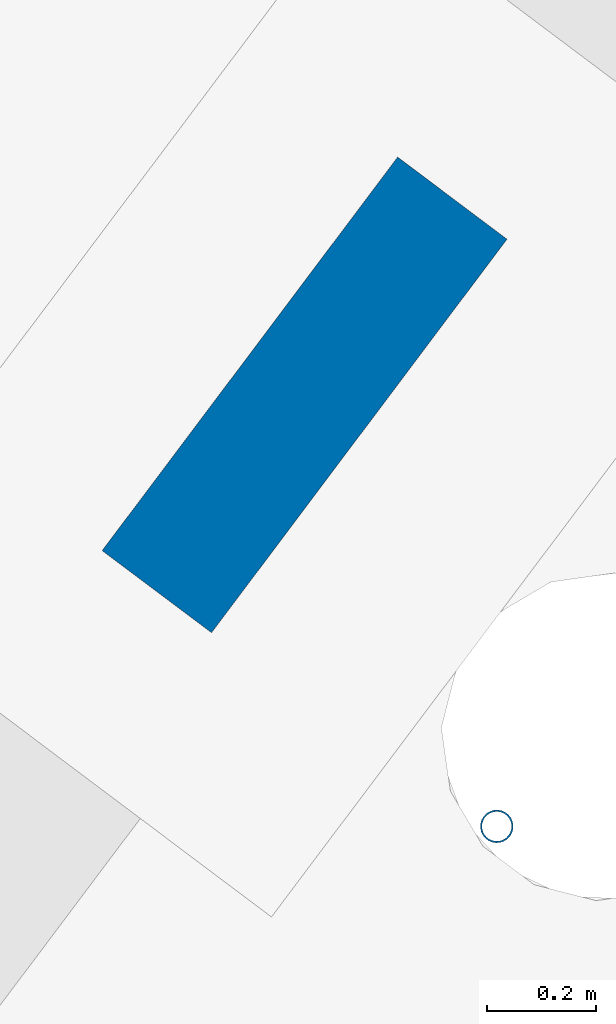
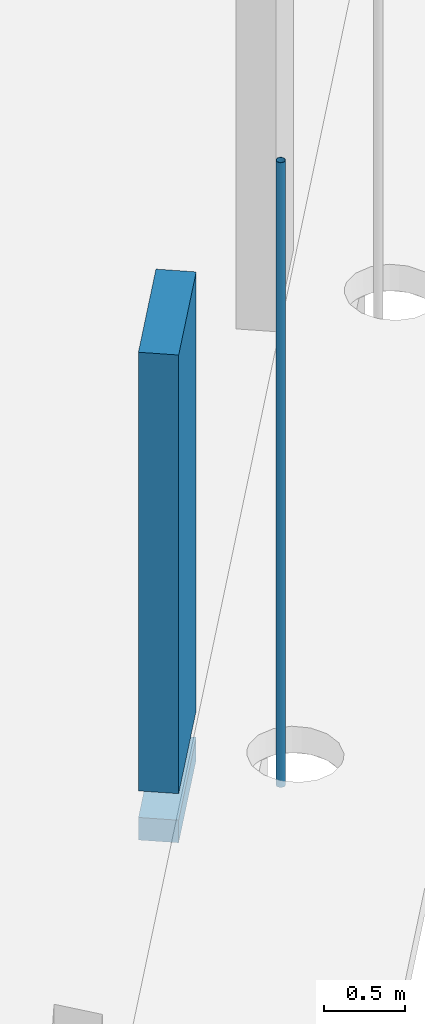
# One storey, part 4 of 24: 2 columns.
"""IFC2X3 building model written with IfcOpenShell, lengths in metres."""

from ifc_helpers import new_model, entity, si_unit, converted_unit, derived_unit, direction, frame, frame_2d, origin, origin_2d_with_axis, place, context, subcontext, project, spatial, rectangle, hollow_circle, extrude, source, transform, mapped, material, type_object, type_shapes, element, save


model = new_model("IFC2X3")

# Units and contexts
model_context = context("Model", 3, precision=1e-05, world=origin(), true_north=direction((6.123031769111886e-17, 1.0)))
body_context = subcontext(model_context, "Body", "Model", "MODEL_VIEW")
ifc_project = project(units=[si_unit("LENGTHUNIT", "METRE"), si_unit("AREAUNIT", "SQUARE_METRE"), si_unit("VOLUMEUNIT", "CUBIC_METRE"), converted_unit("PLANEANGLEUNIT", "DEGREE", entity("IfcRatioMeasure", 0.017453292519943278), si_unit("PLANEANGLEUNIT", "RADIAN"), dimensions=[0, 0, 0, 0, 0, 0, 0]), si_unit("MASSUNIT", "GRAM", prefix="KILO"), derived_unit("MASSDENSITYUNIT", [(si_unit("MASSUNIT", "GRAM", prefix="KILO"), 1), (si_unit("LENGTHUNIT", "METRE"), -3)]), derived_unit("IONCONCENTRATIONUNIT", [(si_unit("MASSUNIT", "GRAM", prefix="KILO"), 1), (si_unit("LENGTHUNIT", "METRE"), -3)]), derived_unit("MOMENTOFINERTIAUNIT", [(si_unit("LENGTHUNIT", "METRE"), 4)]), si_unit("TIMEUNIT", "SECOND"), si_unit("FREQUENCYUNIT", "HERTZ"), si_unit("THERMODYNAMICTEMPERATUREUNIT", "DEGREE_CELSIUS"), derived_unit("THERMALTRANSMITTANCEUNIT", [(si_unit("MASSUNIT", "GRAM", prefix="KILO"), 1), (si_unit("THERMODYNAMICTEMPERATUREUNIT", "KELVIN"), -1), (si_unit("TIMEUNIT", "SECOND"), -3)]), derived_unit("THERMALCONDUCTANCEUNIT", [(si_unit("MASSUNIT", "GRAM", prefix="KILO"), 1), (si_unit("THERMODYNAMICTEMPERATUREUNIT", "KELVIN"), -1), (si_unit("TIMEUNIT", "SECOND"), -3), (si_unit("LENGTHUNIT", "METRE"), 1)]), derived_unit("VOLUMETRICFLOWRATEUNIT", [(si_unit("LENGTHUNIT", "METRE"), 3), (si_unit("TIMEUNIT", "SECOND"), -1)]), derived_unit("MASSFLOWRATEUNIT", [(si_unit("MASSUNIT", "GRAM", prefix="KILO"), 1), (si_unit("TIMEUNIT", "SECOND"), -1)]), derived_unit("ROTATIONALFREQUENCYUNIT", [(si_unit("TIMEUNIT", "SECOND"), -1)]), si_unit("ELECTRICCURRENTUNIT", "AMPERE"), si_unit("ELECTRICVOLTAGEUNIT", "VOLT"), si_unit("POWERUNIT", "WATT"), si_unit("FORCEUNIT", "NEWTON", prefix="KILO"), si_unit("ILLUMINANCEUNIT", "LUX"), si_unit("LUMINOUSFLUXUNIT", "LUMEN"), si_unit("LUMINOUSINTENSITYUNIT", "CANDELA"), derived_unit("USERDEFINED", [(si_unit("MASSUNIT", "GRAM", prefix="KILO"), -1), (si_unit("LENGTHUNIT", "METRE"), -2), (si_unit("TIMEUNIT", "SECOND"), 3), (si_unit("LUMINOUSFLUXUNIT", "LUMEN"), 1)]), derived_unit("USERDEFINED", [(si_unit("MASSUNIT", "GRAM", prefix="KILO"), 1), (si_unit("TIMEUNIT", "SECOND"), -3), (si_unit("LENGTHUNIT", "METRE"), 3), (si_unit("ELECTRICCURRENTUNIT", "AMPERE"), -2)]), derived_unit("SOUNDPOWERUNIT", [(si_unit("MASSUNIT", "GRAM", prefix="KILO"), 1), (si_unit("TIMEUNIT", "SECOND"), -3), (si_unit("LENGTHUNIT", "METRE"), 2)]), derived_unit("SOUNDPRESSUREUNIT", [(si_unit("MASSUNIT", "GRAM", prefix="KILO"), 1), (si_unit("LENGTHUNIT", "METRE"), -1), (si_unit("TIMEUNIT", "SECOND"), -2)]), derived_unit("LINEARVELOCITYUNIT", [(si_unit("LENGTHUNIT", "METRE"), 1), (si_unit("TIMEUNIT", "SECOND"), -1)]), si_unit("PRESSUREUNIT", "PASCAL"), derived_unit("USERDEFINED", [(si_unit("MASSUNIT", "GRAM", prefix="KILO"), 1), (si_unit("LENGTHUNIT", "METRE"), -2), (si_unit("TIMEUNIT", "SECOND"), -2)]), derived_unit("LINEARFORCEUNIT", [(si_unit("MASSUNIT", "GRAM", prefix="KILO"), 1), (si_unit("TIMEUNIT", "SECOND"), -2)]), derived_unit("PLANARFORCEUNIT", [(si_unit("MASSUNIT", "GRAM", prefix="KILO"), 1), (si_unit("LENGTHUNIT", "METRE"), -1), (si_unit("TIMEUNIT", "SECOND"), -2)]), derived_unit("SPECIFICHEATCAPACITYUNIT", [(si_unit("THERMODYNAMICTEMPERATUREUNIT", "KELVIN"), -1), (si_unit("LENGTHUNIT", "METRE"), 2), (si_unit("TIMEUNIT", "SECOND"), -2)]), derived_unit("HEATINGVALUEUNIT", [(si_unit("LENGTHUNIT", "METRE"), 2), (si_unit("TIMEUNIT", "SECOND"), -2)]), derived_unit("VAPORPERMEABILITYUNIT", [(si_unit("LENGTHUNIT", "METRE"), -1), (si_unit("TIMEUNIT", "SECOND"), 1)]), derived_unit("DYNAMICVISCOSITYUNIT", [(si_unit("MASSUNIT", "GRAM", prefix="KILO"), 1), (si_unit("TIMEUNIT", "SECOND"), -1), (si_unit("LENGTHUNIT", "METRE"), -1)]), derived_unit("THERMALEXPANSIONCOEFFICIENTUNIT", [(si_unit("THERMODYNAMICTEMPERATUREUNIT", "KELVIN"), -1)]), derived_unit("MODULUSOFELASTICITYUNIT", [(si_unit("MASSUNIT", "GRAM", prefix="KILO"), 1), (si_unit("LENGTHUNIT", "METRE"), -1), (si_unit("TIMEUNIT", "SECOND"), -2)]), derived_unit("ISOTHERMALMOISTURECAPACITYUNIT", [(si_unit("LENGTHUNIT", "METRE"), 3), (si_unit("MASSUNIT", "GRAM", prefix="KILO"), -1)]), derived_unit("MOISTUREDIFFUSIVITYUNIT", [(si_unit("TIMEUNIT", "SECOND"), -1), (si_unit("LENGTHUNIT", "METRE"), 2)])], contexts=[model_context])

# Site, building, storey
site_placement = place(None, origin())
site = spatial("IfcSite", under=ifc_project, at=site_placement, Name="Default", CompositionType="ELEMENT")
building_placement = place(site_placement, frame((0.0, 0.0, 235.0), z_axis=(0.0, 0.0, 1.0), x_axis=(-0.7996477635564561, 0.6004693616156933, 0.0)))
building = spatial("IfcBuilding", under=site, at=building_placement, CompositionType="ELEMENT")
storey_placement = place(building_placement, origin())
storey = spatial("IfcBuildingStorey", under=building, at=storey_placement, Name="P0- Escola", CompositionType="ELEMENT", Elevation=0.0)

# Columns
ifc_material_1 = material(Name="_Formigó- T1- STR")
column_type_1 = type_object("IfcColumnType", Name="STR- P- Formigó- Rectangular- T1:25x90cm", PredefinedType="COLUMN", material=ifc_material_1)
shared_shape_1 = source(origin(), body_context, "Body", "SweptSolid", [
    extrude(rectangle(XDim=0.899999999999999, YDim=0.25000000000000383, at=origin_2d_with_axis()), frame((53.92014768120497, -24.915191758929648, -0.57), z_axis=(0.0, 0.0, 1.0), x_axis=(0.0, -1.0, 0.0)), (0.0, 0.0, 1.0), 0.16999999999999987),
    extrude(rectangle(XDim=0.899999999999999, YDim=0.25000000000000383, at=origin_2d_with_axis()), frame((53.92014768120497, -24.915191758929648, -0.2), z_axis=(0.0, 0.0, 1.0), x_axis=(0.0, -1.0, 0.0)), (0.0, 0.0, 1.0), 3.3000000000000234),
])
type_shapes(column_type_1, [shared_shape_1])
column_1_placement = place(storey_placement, origin())
element("IfcColumn", 1, at=column_1_placement, inside=storey, type_object=column_type_1, material=ifc_material_1, Name="STR- P- Formigó- Rectangular- T1:25x90cm", ObjectType="STR- P- Formigó- Rectangular- T1:25x90cm", context=body_context, shape_type="MappedRepresentation", body=[
    mapped(shared_shape_1, transform((0.0, 0.0, 0.0), scale=1.0)),
])
ifc_material_2 = material(Name="Metal - Acero - 345 MPa")
column_type_2 = type_object("IfcColumnType", Name="STR- P- Acer- CHS- Circular- T1:60.3 x 3CHS", PredefinedType="COLUMN", material=ifc_material_2)
shared_shape_2 = source(origin(), body_context, "Body", "SweptSolid", [
    extrude(hollow_circle(Radius=0.03014999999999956, WallThickness=0.0029999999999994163, at=frame_2d((-4.81877898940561e-19, 4.854464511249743e-17), x_axis=(1.0, 0.0))), frame((0.0, 0.0, -0.1)), (0.0, 0.0, 1.0), 4.700000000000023),
])
type_shapes(column_type_2, [shared_shape_2])
column_2_placement = place(storey_placement, frame((53.16514768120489, -24.495191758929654, 0.0)))
element("IfcColumn", 2, at=column_2_placement, inside=storey, type_object=column_type_2, material=ifc_material_2, Name="STR- P- Acer- CHS- Circular- T1:60.3 x 3CHS", ObjectType="STR- P- Acer- CHS- Circular- T1:60.3 x 3CHS", context=body_context, shape_type="MappedRepresentation", body=[
    mapped(shared_shape_2, transform((0.0, 0.0, 0.0), scale=1.0)),
])

save(model, "model.ifc")
